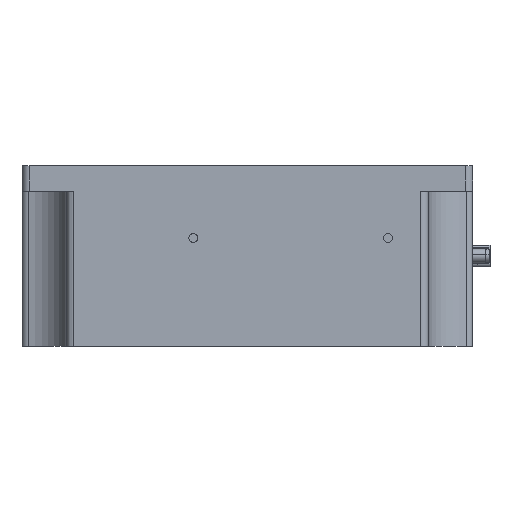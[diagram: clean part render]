
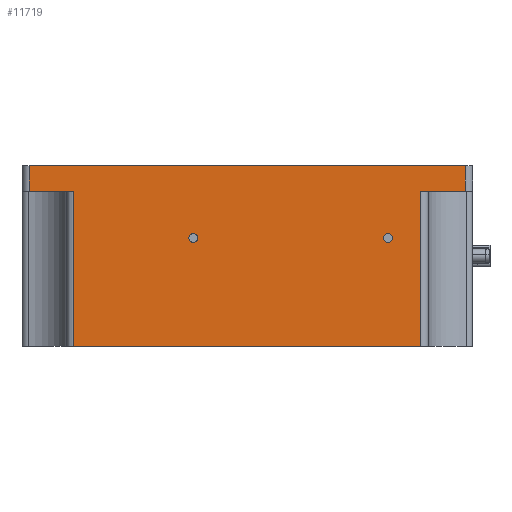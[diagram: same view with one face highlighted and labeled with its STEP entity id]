
A CAD part, left-side view. The second image highlights one B-rep face of the part: STEP entity #11719.
In plain terms, the highlighted planar face has unit normal (-1, 0, 0).
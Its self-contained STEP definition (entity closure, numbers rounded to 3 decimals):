
#108 = CARTESIAN_POINT ( 'NONE',  ( -150., 0., -7. ) ) ;
#135 = CARTESIAN_POINT ( 'NONE',  ( -150., -110.639, -7. ) ) ;
#299 = CARTESIAN_POINT ( 'NONE',  ( -150., -101.5, -20. ) ) ;
#434 = DIRECTION ( 'NONE',  ( -1., 0., 0. ) ) ;
#518 = AXIS2_PLACEMENT_3D ( 'NONE', #15943, #17313, #11837 ) ;
#639 = CIRCLE ( 'NONE', #687, 1.25 ) ;
#687 = AXIS2_PLACEMENT_3D ( 'NONE', #908, #7921, #3626 ) ;
#747 = ORIENTED_EDGE ( 'NONE', *, *, #3072, .T. ) ;
#908 = CARTESIAN_POINT ( 'NONE',  ( -150., -101.5, -20. ) ) ;
#914 = CARTESIAN_POINT ( 'NONE',  ( -150., -123., 0. ) ) ;
#972 = ORIENTED_EDGE ( 'NONE', *, *, #6394, .T. ) ;
#1363 = CARTESIAN_POINT ( 'NONE',  ( -150., -101.5, -21.25 ) ) ;
#1443 = EDGE_CURVE ( 'NONE', #9106, #7101, #9483, .T. ) ;
#1450 = LINE ( 'NONE', #15070, #15333 ) ;
#2334 = ORIENTED_EDGE ( 'NONE', *, *, #12013, .T. ) ;
#2368 = ORIENTED_EDGE ( 'NONE', *, *, #13991, .F. ) ;
#2395 = ORIENTED_EDGE ( 'NONE', *, *, #5405, .F. ) ;
#2859 = DIRECTION ( 'NONE',  ( 0., -1., 0. ) ) ;
#3072 = EDGE_CURVE ( 'NONE', #13340, #4445, #3340, .T. ) ;
#3327 = ORIENTED_EDGE ( 'NONE', *, *, #6391, .T. ) ;
#3335 = CARTESIAN_POINT ( 'NONE',  ( -150., -14.361, -7. ) ) ;
#3340 = LINE ( 'NONE', #5868, #15268 ) ;
#3626 = DIRECTION ( 'NONE',  ( 0., 0., 1. ) ) ;
#3784 = VERTEX_POINT ( 'NONE', #4601 ) ;
#3812 = EDGE_CURVE ( 'NONE', #8969, #16639, #12218, .T. ) ;
#4183 = VERTEX_POINT ( 'NONE', #13553 ) ;
#4445 = VERTEX_POINT ( 'NONE', #914 ) ;
#4497 = FACE_BOUND ( 'NONE', #17307, .T. ) ;
#4544 = DIRECTION ( 'NONE',  ( 0., 0., 1. ) ) ;
#4601 = CARTESIAN_POINT ( 'NONE',  ( -150., -14.361, -50. ) ) ;
#4674 = LINE ( 'NONE', #16284, #12089 ) ;
#5004 = VECTOR ( 'NONE', #4544, 1000. ) ;
#5055 = ORIENTED_EDGE ( 'NONE', *, *, #15211, .T. ) ;
#5322 = ORIENTED_EDGE ( 'NONE', *, *, #17123, .F. ) ;
#5405 = EDGE_CURVE ( 'NONE', #7101, #9106, #12522, .T. ) ;
#5557 = DIRECTION ( 'NONE',  ( 0., 0., 1. ) ) ;
#5566 = DIRECTION ( 'NONE',  ( 0., 0., 1. ) ) ;
#5748 = CARTESIAN_POINT ( 'NONE',  ( -150., -47.5, -20. ) ) ;
#5864 = DIRECTION ( 'NONE',  ( 0., 0., 1. ) ) ;
#5868 = CARTESIAN_POINT ( 'NONE',  ( -150., -123., 0. ) ) ;
#6391 = EDGE_CURVE ( 'NONE', #3784, #8969, #4674, .T. ) ;
#6394 = EDGE_CURVE ( 'NONE', #16639, #13340, #14051, .T. ) ;
#6607 = LINE ( 'NONE', #14191, #12561 ) ;
#6660 = AXIS2_PLACEMENT_3D ( 'NONE', #299, #16655, #5557 ) ;
#6744 = LINE ( 'NONE', #14797, #16795 ) ;
#6844 = EDGE_CURVE ( 'NONE', #7841, #3784, #17422, .T. ) ;
#7101 = VERTEX_POINT ( 'NONE', #7652 ) ;
#7110 = CARTESIAN_POINT ( 'NONE',  ( -150., -47.5, -18.75 ) ) ;
#7324 = CARTESIAN_POINT ( 'NONE',  ( -150., -110.639, 0. ) ) ;
#7652 = CARTESIAN_POINT ( 'NONE',  ( -150., -47.5, -21.25 ) ) ;
#7841 = VERTEX_POINT ( 'NONE', #3335 ) ;
#7921 = DIRECTION ( 'NONE',  ( -1., 0., 0. ) ) ;
#7968 = DIRECTION ( 'NONE',  ( 0., -1., 0. ) ) ;
#8746 = FACE_BOUND ( 'NONE', #9066, .T. ) ;
#8969 = VERTEX_POINT ( 'NONE', #12153 ) ;
#9066 = EDGE_LOOP ( 'NONE', ( #9212, #2395 ) ) ;
#9106 = VERTEX_POINT ( 'NONE', #7110 ) ;
#9212 = ORIENTED_EDGE ( 'NONE', *, *, #1443, .F. ) ;
#9483 = CIRCLE ( 'NONE', #16586, 1.25 ) ;
#9561 = DIRECTION ( 'NONE',  ( 0., -1., 0. ) ) ;
#9903 = DIRECTION ( 'NONE',  ( -1., 0., 0. ) ) ;
#10407 = ORIENTED_EDGE ( 'NONE', *, *, #17095, .F. ) ;
#10736 = VERTEX_POINT ( 'NONE', #1363 ) ;
#10856 = VERTEX_POINT ( 'NONE', #12653 ) ;
#10977 = VECTOR ( 'NONE', #11070, 1000. ) ;
#11070 = DIRECTION ( 'NONE',  ( 0., 0., -1. ) ) ;
#11625 = CARTESIAN_POINT ( 'NONE',  ( -150., -2., 0. ) ) ;
#11719 = ADVANCED_FACE ( 'NONE', ( #4497, #8746, #13425 ), #14565, .F. ) ;
#11812 = CIRCLE ( 'NONE', #6660, 1.25 ) ;
#11837 = DIRECTION ( 'NONE',  ( 0., 0., -1. ) ) ;
#12013 = EDGE_CURVE ( 'NONE', #13534, #10856, #6607, .T. ) ;
#12089 = VECTOR ( 'NONE', #9561, 1000. ) ;
#12153 = CARTESIAN_POINT ( 'NONE',  ( -150., -110.639, -50. ) ) ;
#12218 = LINE ( 'NONE', #7324, #5004 ) ;
#12285 = CARTESIAN_POINT ( 'NONE',  ( -150., -14.361, 0. ) ) ;
#12522 = CIRCLE ( 'NONE', #14666, 1.25 ) ;
#12561 = VECTOR ( 'NONE', #12863, 1000. ) ;
#12600 = CARTESIAN_POINT ( 'NONE',  ( -150., -123., -7. ) ) ;
#12653 = CARTESIAN_POINT ( 'NONE',  ( -150., -2., -7. ) ) ;
#12863 = DIRECTION ( 'NONE',  ( 0., 0., -1. ) ) ;
#12898 = ORIENTED_EDGE ( 'NONE', *, *, #3812, .T. ) ;
#13017 = EDGE_LOOP ( 'NONE', ( #5055, #16569, #3327, #12898, #972, #747, #10407, #2334 ) ) ;
#13324 = CARTESIAN_POINT ( 'NONE',  ( -150., -47.5, -20. ) ) ;
#13340 = VERTEX_POINT ( 'NONE', #12600 ) ;
#13425 = FACE_OUTER_BOUND ( 'NONE', #13017, .T. ) ;
#13534 = VERTEX_POINT ( 'NONE', #11625 ) ;
#13553 = CARTESIAN_POINT ( 'NONE',  ( -150., -101.5, -18.75 ) ) ;
#13991 = EDGE_CURVE ( 'NONE', #10736, #4183, #639, .T. ) ;
#14051 = LINE ( 'NONE', #108, #17251 ) ;
#14191 = CARTESIAN_POINT ( 'NONE',  ( -150., -2., 0. ) ) ;
#14565 = PLANE ( 'NONE',  #518 ) ;
#14666 = AXIS2_PLACEMENT_3D ( 'NONE', #5748, #434, #5864 ) ;
#14797 = CARTESIAN_POINT ( 'NONE',  ( -150., 0., 0. ) ) ;
#15004 = DIRECTION ( 'NONE',  ( 0., 0., 1. ) ) ;
#15070 = CARTESIAN_POINT ( 'NONE',  ( -150., 0., -7. ) ) ;
#15211 = EDGE_CURVE ( 'NONE', #10856, #7841, #1450, .T. ) ;
#15268 = VECTOR ( 'NONE', #5566, 1000. ) ;
#15333 = VECTOR ( 'NONE', #2859, 1000. ) ;
#15943 = CARTESIAN_POINT ( 'NONE',  ( -150., 0., 0. ) ) ;
#16284 = CARTESIAN_POINT ( 'NONE',  ( -150., 0., -50. ) ) ;
#16409 = DIRECTION ( 'NONE',  ( 0., -1., 0. ) ) ;
#16569 = ORIENTED_EDGE ( 'NONE', *, *, #6844, .T. ) ;
#16586 = AXIS2_PLACEMENT_3D ( 'NONE', #13324, #9903, #15004 ) ;
#16639 = VERTEX_POINT ( 'NONE', #135 ) ;
#16655 = DIRECTION ( 'NONE',  ( -1., 0., 0. ) ) ;
#16795 = VECTOR ( 'NONE', #7968, 1000. ) ;
#17095 = EDGE_CURVE ( 'NONE', #13534, #4445, #6744, .T. ) ;
#17123 = EDGE_CURVE ( 'NONE', #4183, #10736, #11812, .T. ) ;
#17251 = VECTOR ( 'NONE', #16409, 1000. ) ;
#17307 = EDGE_LOOP ( 'NONE', ( #5322, #2368 ) ) ;
#17313 = DIRECTION ( 'NONE',  ( 1., 0., 0. ) ) ;
#17422 = LINE ( 'NONE', #12285, #10977 ) ;
